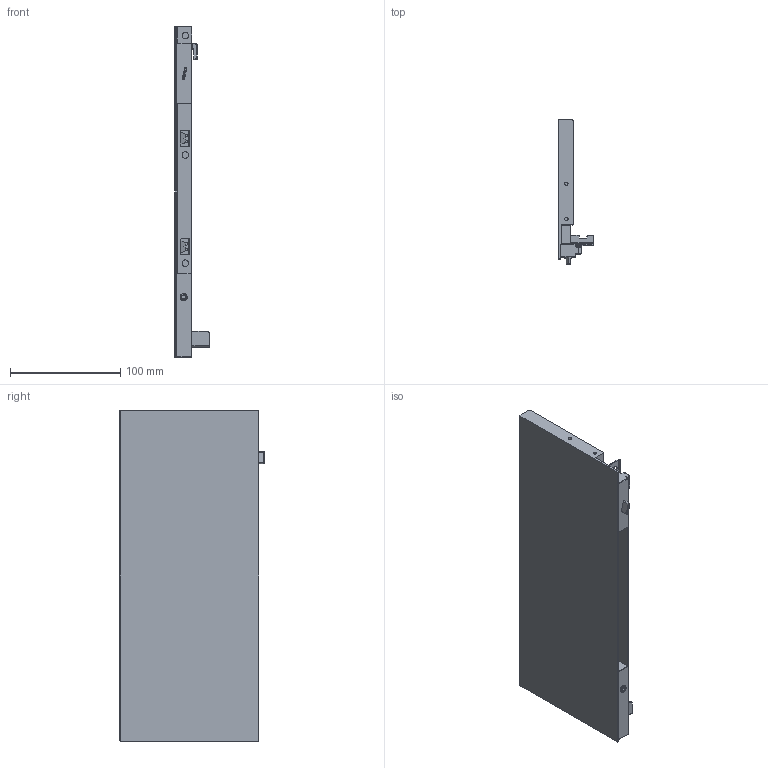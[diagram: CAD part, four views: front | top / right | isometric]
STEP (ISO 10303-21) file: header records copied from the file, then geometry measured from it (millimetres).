
FILE_DESCRIPTION (( 'STEP AP203' ), '1' );
FILE_NAME ('HT123001-L.STEP', '2022-06-28T08:33:24', ( 'Users' ), ( 'Microsoft' ), 'SwSTEP 2.0', 'SolidWorks 2018', '' );
FILE_SCHEMA (( 'CONFIG_CONTROL_DESIGN' ));
Length unit declared in the file: millimetre
Products named in the file (1): HT123001-L
Bounding box: 31.3 x 131 x 299 mm (x, y, z)
Volume: 408569.2 mm3; surface area: 101131.7 mm2
Topology: 1 solids, 8 shells, 367 faces, 924 edges, 573 vertices
Faces by surface type: plane 174, cylinder 129, torus 29, bspline 23, cone 6, sphere 6
Entity records: 11463 total; most frequent: CARTESIAN_POINT 2726, ORIENTED_EDGE 1830, DIRECTION 1776, EDGE_CURVE 915, AXIS2_PLACEMENT_3D 607, VERTEX_POINT 573, LINE 562, VECTOR 562
